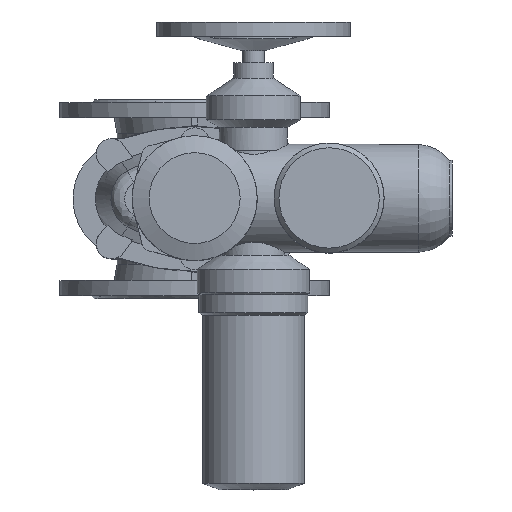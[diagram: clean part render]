
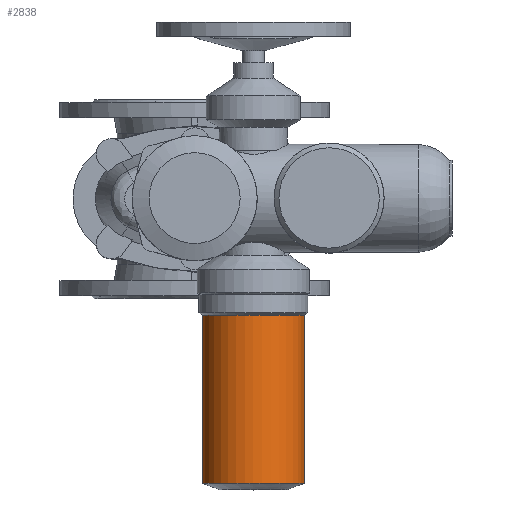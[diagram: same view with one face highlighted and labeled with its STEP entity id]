
A CAD part, top view. The second image highlights one B-rep face of the part: STEP entity #2838.
In plain terms, the highlighted cylindrical face has radius 54 mm (diameter 108 mm), a full revolution.
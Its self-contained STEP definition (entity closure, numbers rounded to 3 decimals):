
#2838=ADVANCED_FACE('',(#6166,#6168),#6170,.T.);
#6166=FACE_OUTER_BOUND('',#6167,.T.);
#6167=EDGE_LOOP('',(#8004));
#6168=FACE_OUTER_BOUND('',#6169,.T.);
#6169=EDGE_LOOP('',(#8005));
#6170=CYLINDRICAL_SURFACE('',#6171,54.);
#6171=AXIS2_PLACEMENT_3D('',#6172,#6173,#6174);
#6172=CARTESIAN_POINT('',(62.,-301.085,533.));
#6173=DIRECTION('',(0.,1.,0.));
#6174=DIRECTION('',(0.,0.,1.));
#8004=ORIENTED_EDGE('',*,*,#8926,.F.);
#8005=ORIENTED_EDGE('',*,*,#8948,.T.);
#8926=EDGE_CURVE('',#10387,#10387,#10388,.T.);
#8948=EDGE_CURVE('',#10415,#10415,#10416,.T.);
#10387=VERTEX_POINT('',#18173);
#10388=CIRCLE('',#18174,54.);
#10415=VERTEX_POINT('',#18267);
#10416=CIRCLE('',#18268,54.);
#18173=CARTESIAN_POINT('',(62.,-123.505,587.));
#18174=AXIS2_PLACEMENT_3D('',#18175,#18176,#18177);
#18175=CARTESIAN_POINT('',(62.,-123.505,533.));
#18176=DIRECTION('',(0.,1.,0.));
#18177=DIRECTION('',(0.,0.,1.));
#18267=CARTESIAN_POINT('',(62.,-301.085,587.));
#18268=AXIS2_PLACEMENT_3D('',#18269,#18270,#18271);
#18269=CARTESIAN_POINT('',(62.,-301.085,533.));
#18270=DIRECTION('',(0.,1.,0.));
#18271=DIRECTION('',(0.,0.,1.));
